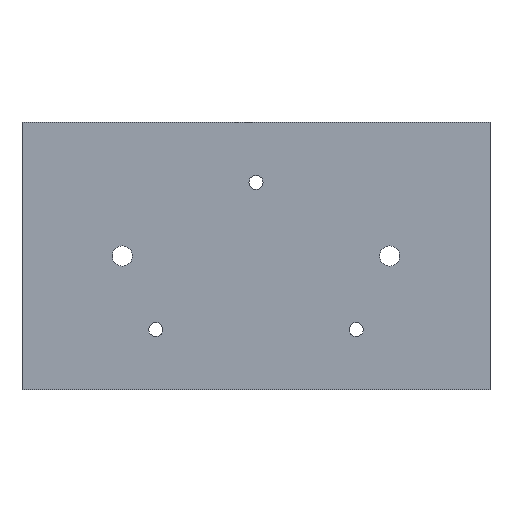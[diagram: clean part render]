
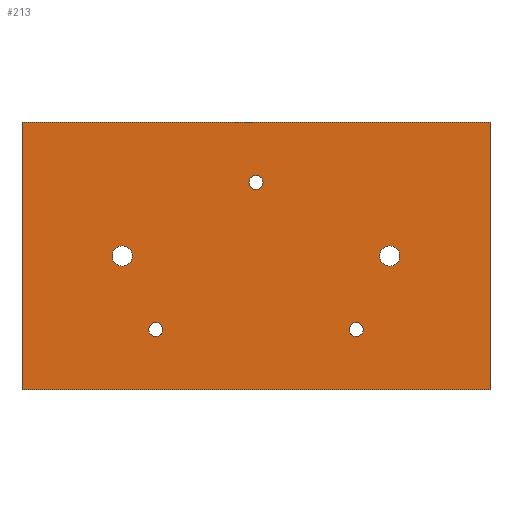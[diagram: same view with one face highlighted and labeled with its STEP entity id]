
A CAD part, top view. The second image highlights one B-rep face of the part: STEP entity #213.
In plain terms, the highlighted planar face has unit normal (0, 0, 1).
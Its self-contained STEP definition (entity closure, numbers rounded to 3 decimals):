
#24 = VERTEX_POINT('',#25);
#25 = CARTESIAN_POINT('',(-70.,-40.,24.));
#32 = PLANE('',#33);
#33 = AXIS2_PLACEMENT_3D('',#34,#35,#36);
#34 = CARTESIAN_POINT('',(-70.,-40.,16.));
#35 = DIRECTION('',(1.,0.,0.));
#36 = DIRECTION('',(0.,0.,1.));
#44 = PLANE('',#45);
#45 = AXIS2_PLACEMENT_3D('',#46,#47,#48);
#46 = CARTESIAN_POINT('',(-70.,-40.,16.));
#47 = DIRECTION('',(0.,1.,0.));
#48 = DIRECTION('',(0.,0.,1.));
#85 = VERTEX_POINT('',#86);
#86 = CARTESIAN_POINT('',(-70.,40.,24.));
#100 = PLANE('',#101);
#101 = AXIS2_PLACEMENT_3D('',#102,#103,#104);
#102 = CARTESIAN_POINT('',(-70.,40.,16.));
#103 = DIRECTION('',(0.,1.,0.));
#104 = DIRECTION('',(0.,0.,1.));
#112 = EDGE_CURVE('',#24,#85,#113,.T.);
#113 = SURFACE_CURVE('',#114,(#118,#125),.PCURVE_S1.);
#114 = LINE('',#115,#116);
#115 = CARTESIAN_POINT('',(-70.,-40.,24.));
#116 = VECTOR('',#117,1.);
#117 = DIRECTION('',(0.,1.,0.));
#118 = PCURVE('',#32,#119);
#119 = DEFINITIONAL_REPRESENTATION('',(#120),#124);
#120 = LINE('',#121,#122);
#121 = CARTESIAN_POINT('',(8.,0.));
#122 = VECTOR('',#123,1.);
#123 = DIRECTION('',(0.,-1.));
#124 = ( GEOMETRIC_REPRESENTATION_CONTEXT(2) 
PARAMETRIC_REPRESENTATION_CONTEXT() REPRESENTATION_CONTEXT('2D SPACE',''
  ) );
#125 = PCURVE('',#126,#131);
#126 = PLANE('',#127);
#127 = AXIS2_PLACEMENT_3D('',#128,#129,#130);
#128 = CARTESIAN_POINT('',(-70.,-40.,24.));
#129 = DIRECTION('',(0.,0.,1.));
#130 = DIRECTION('',(1.,0.,0.));
#131 = DEFINITIONAL_REPRESENTATION('',(#132),#136);
#132 = LINE('',#133,#134);
#133 = CARTESIAN_POINT('',(0.,0.));
#134 = VECTOR('',#135,1.);
#135 = DIRECTION('',(0.,1.));
#136 = ( GEOMETRIC_REPRESENTATION_CONTEXT(2) 
PARAMETRIC_REPRESENTATION_CONTEXT() REPRESENTATION_CONTEXT('2D SPACE',''
  ) );
#165 = EDGE_CURVE('',#24,#166,#168,.T.);
#166 = VERTEX_POINT('',#167);
#167 = CARTESIAN_POINT('',(70.,-40.,24.));
#168 = SURFACE_CURVE('',#169,(#173,#180),.PCURVE_S1.);
#169 = LINE('',#170,#171);
#170 = CARTESIAN_POINT('',(-70.,-40.,24.));
#171 = VECTOR('',#172,1.);
#172 = DIRECTION('',(1.,0.,0.));
#173 = PCURVE('',#44,#174);
#174 = DEFINITIONAL_REPRESENTATION('',(#175),#179);
#175 = LINE('',#176,#177);
#176 = CARTESIAN_POINT('',(8.,0.));
#177 = VECTOR('',#178,1.);
#178 = DIRECTION('',(0.,1.));
#179 = ( GEOMETRIC_REPRESENTATION_CONTEXT(2) 
PARAMETRIC_REPRESENTATION_CONTEXT() REPRESENTATION_CONTEXT('2D SPACE',''
  ) );
#180 = PCURVE('',#126,#181);
#181 = DEFINITIONAL_REPRESENTATION('',(#182),#186);
#182 = LINE('',#183,#184);
#183 = CARTESIAN_POINT('',(0.,0.));
#184 = VECTOR('',#185,1.);
#185 = DIRECTION('',(1.,0.));
#186 = ( GEOMETRIC_REPRESENTATION_CONTEXT(2) 
PARAMETRIC_REPRESENTATION_CONTEXT() REPRESENTATION_CONTEXT('2D SPACE',''
  ) );
#202 = PLANE('',#203);
#203 = AXIS2_PLACEMENT_3D('',#204,#205,#206);
#204 = CARTESIAN_POINT('',(70.,-40.,16.));
#205 = DIRECTION('',(1.,0.,0.));
#206 = DIRECTION('',(0.,0.,1.));
#213 = ADVANCED_FACE('',(#214,#262,#293,#324,#355,#386),#126,.T.);
#214 = FACE_BOUND('',#215,.T.);
#215 = EDGE_LOOP('',(#216,#217,#218,#241));
#216 = ORIENTED_EDGE('',*,*,#112,.F.);
#217 = ORIENTED_EDGE('',*,*,#165,.T.);
#218 = ORIENTED_EDGE('',*,*,#219,.T.);
#219 = EDGE_CURVE('',#166,#220,#222,.T.);
#220 = VERTEX_POINT('',#221);
#221 = CARTESIAN_POINT('',(70.,40.,24.));
#222 = SURFACE_CURVE('',#223,(#227,#234),.PCURVE_S1.);
#223 = LINE('',#224,#225);
#224 = CARTESIAN_POINT('',(70.,-40.,24.));
#225 = VECTOR('',#226,1.);
#226 = DIRECTION('',(0.,1.,0.));
#227 = PCURVE('',#126,#228);
#228 = DEFINITIONAL_REPRESENTATION('',(#229),#233);
#229 = LINE('',#230,#231);
#230 = CARTESIAN_POINT('',(140.,0.));
#231 = VECTOR('',#232,1.);
#232 = DIRECTION('',(0.,1.));
#233 = ( GEOMETRIC_REPRESENTATION_CONTEXT(2) 
PARAMETRIC_REPRESENTATION_CONTEXT() REPRESENTATION_CONTEXT('2D SPACE',''
  ) );
#234 = PCURVE('',#202,#235);
#235 = DEFINITIONAL_REPRESENTATION('',(#236),#240);
#236 = LINE('',#237,#238);
#237 = CARTESIAN_POINT('',(8.,0.));
#238 = VECTOR('',#239,1.);
#239 = DIRECTION('',(0.,-1.));
#240 = ( GEOMETRIC_REPRESENTATION_CONTEXT(2) 
PARAMETRIC_REPRESENTATION_CONTEXT() REPRESENTATION_CONTEXT('2D SPACE',''
  ) );
#241 = ORIENTED_EDGE('',*,*,#242,.F.);
#242 = EDGE_CURVE('',#85,#220,#243,.T.);
#243 = SURFACE_CURVE('',#244,(#248,#255),.PCURVE_S1.);
#244 = LINE('',#245,#246);
#245 = CARTESIAN_POINT('',(-70.,40.,24.));
#246 = VECTOR('',#247,1.);
#247 = DIRECTION('',(1.,0.,0.));
#248 = PCURVE('',#126,#249);
#249 = DEFINITIONAL_REPRESENTATION('',(#250),#254);
#250 = LINE('',#251,#252);
#251 = CARTESIAN_POINT('',(0.,80.));
#252 = VECTOR('',#253,1.);
#253 = DIRECTION('',(1.,0.));
#254 = ( GEOMETRIC_REPRESENTATION_CONTEXT(2) 
PARAMETRIC_REPRESENTATION_CONTEXT() REPRESENTATION_CONTEXT('2D SPACE',''
  ) );
#255 = PCURVE('',#100,#256);
#256 = DEFINITIONAL_REPRESENTATION('',(#257),#261);
#257 = LINE('',#258,#259);
#258 = CARTESIAN_POINT('',(8.,0.));
#259 = VECTOR('',#260,1.);
#260 = DIRECTION('',(0.,1.));
#261 = ( GEOMETRIC_REPRESENTATION_CONTEXT(2) 
PARAMETRIC_REPRESENTATION_CONTEXT() REPRESENTATION_CONTEXT('2D SPACE',''
  ) );
#262 = FACE_BOUND('',#263,.T.);
#263 = EDGE_LOOP('',(#264));
#264 = ORIENTED_EDGE('',*,*,#265,.F.);
#265 = EDGE_CURVE('',#266,#266,#268,.T.);
#266 = VERTEX_POINT('',#267);
#267 = CARTESIAN_POINT('',(-27.9,-22.,24.));
#268 = SURFACE_CURVE('',#269,(#274,#281),.PCURVE_S1.);
#269 = CIRCLE('',#270,2.1);
#270 = AXIS2_PLACEMENT_3D('',#271,#272,#273);
#271 = CARTESIAN_POINT('',(-30.,-22.,24.));
#272 = DIRECTION('',(0.,0.,1.));
#273 = DIRECTION('',(1.,0.,0.));
#274 = PCURVE('',#126,#275);
#275 = DEFINITIONAL_REPRESENTATION('',(#276),#280);
#276 = CIRCLE('',#277,2.1);
#277 = AXIS2_PLACEMENT_2D('',#278,#279);
#278 = CARTESIAN_POINT('',(40.,18.));
#279 = DIRECTION('',(1.,0.));
#280 = ( GEOMETRIC_REPRESENTATION_CONTEXT(2) 
PARAMETRIC_REPRESENTATION_CONTEXT() REPRESENTATION_CONTEXT('2D SPACE',''
  ) );
#281 = PCURVE('',#282,#287);
#282 = CYLINDRICAL_SURFACE('',#283,2.1);
#283 = AXIS2_PLACEMENT_3D('',#284,#285,#286);
#284 = CARTESIAN_POINT('',(-30.,-22.,16.));
#285 = DIRECTION('',(-0.,-0.,-1.));
#286 = DIRECTION('',(1.,0.,0.));
#287 = DEFINITIONAL_REPRESENTATION('',(#288),#292);
#288 = LINE('',#289,#290);
#289 = CARTESIAN_POINT('',(-0.,-8.));
#290 = VECTOR('',#291,1.);
#291 = DIRECTION('',(-1.,0.));
#292 = ( GEOMETRIC_REPRESENTATION_CONTEXT(2) 
PARAMETRIC_REPRESENTATION_CONTEXT() REPRESENTATION_CONTEXT('2D SPACE',''
  ) );
#293 = FACE_BOUND('',#294,.T.);
#294 = EDGE_LOOP('',(#295));
#295 = ORIENTED_EDGE('',*,*,#296,.F.);
#296 = EDGE_CURVE('',#297,#297,#299,.T.);
#297 = VERTEX_POINT('',#298);
#298 = CARTESIAN_POINT('',(32.1,-22.,24.));
#299 = SURFACE_CURVE('',#300,(#305,#312),.PCURVE_S1.);
#300 = CIRCLE('',#301,2.1);
#301 = AXIS2_PLACEMENT_3D('',#302,#303,#304);
#302 = CARTESIAN_POINT('',(30.,-22.,24.));
#303 = DIRECTION('',(0.,0.,1.));
#304 = DIRECTION('',(1.,0.,0.));
#305 = PCURVE('',#126,#306);
#306 = DEFINITIONAL_REPRESENTATION('',(#307),#311);
#307 = CIRCLE('',#308,2.1);
#308 = AXIS2_PLACEMENT_2D('',#309,#310);
#309 = CARTESIAN_POINT('',(100.,18.));
#310 = DIRECTION('',(1.,0.));
#311 = ( GEOMETRIC_REPRESENTATION_CONTEXT(2) 
PARAMETRIC_REPRESENTATION_CONTEXT() REPRESENTATION_CONTEXT('2D SPACE',''
  ) );
#312 = PCURVE('',#313,#318);
#313 = CYLINDRICAL_SURFACE('',#314,2.1);
#314 = AXIS2_PLACEMENT_3D('',#315,#316,#317);
#315 = CARTESIAN_POINT('',(30.,-22.,16.));
#316 = DIRECTION('',(-0.,-0.,-1.));
#317 = DIRECTION('',(1.,0.,0.));
#318 = DEFINITIONAL_REPRESENTATION('',(#319),#323);
#319 = LINE('',#320,#321);
#320 = CARTESIAN_POINT('',(-0.,-8.));
#321 = VECTOR('',#322,1.);
#322 = DIRECTION('',(-1.,0.));
#323 = ( GEOMETRIC_REPRESENTATION_CONTEXT(2) 
PARAMETRIC_REPRESENTATION_CONTEXT() REPRESENTATION_CONTEXT('2D SPACE',''
  ) );
#324 = FACE_BOUND('',#325,.T.);
#325 = EDGE_LOOP('',(#326));
#326 = ORIENTED_EDGE('',*,*,#327,.F.);
#327 = EDGE_CURVE('',#328,#328,#330,.T.);
#328 = VERTEX_POINT('',#329);
#329 = CARTESIAN_POINT('',(-36.985,0.,24.));
#330 = SURFACE_CURVE('',#331,(#336,#343),.PCURVE_S1.);
#331 = CIRCLE('',#332,3.015);
#332 = AXIS2_PLACEMENT_3D('',#333,#334,#335);
#333 = CARTESIAN_POINT('',(-40.,0.,24.));
#334 = DIRECTION('',(0.,0.,1.));
#335 = DIRECTION('',(1.,0.,0.));
#336 = PCURVE('',#126,#337);
#337 = DEFINITIONAL_REPRESENTATION('',(#338),#342);
#338 = CIRCLE('',#339,3.015);
#339 = AXIS2_PLACEMENT_2D('',#340,#341);
#340 = CARTESIAN_POINT('',(30.,40.));
#341 = DIRECTION('',(1.,0.));
#342 = ( GEOMETRIC_REPRESENTATION_CONTEXT(2) 
PARAMETRIC_REPRESENTATION_CONTEXT() REPRESENTATION_CONTEXT('2D SPACE',''
  ) );
#343 = PCURVE('',#344,#349);
#344 = CYLINDRICAL_SURFACE('',#345,3.015);
#345 = AXIS2_PLACEMENT_3D('',#346,#347,#348);
#346 = CARTESIAN_POINT('',(-40.,0.,16.));
#347 = DIRECTION('',(-0.,-0.,-1.));
#348 = DIRECTION('',(1.,0.,0.));
#349 = DEFINITIONAL_REPRESENTATION('',(#350),#354);
#350 = LINE('',#351,#352);
#351 = CARTESIAN_POINT('',(-0.,-8.));
#352 = VECTOR('',#353,1.);
#353 = DIRECTION('',(-1.,0.));
#354 = ( GEOMETRIC_REPRESENTATION_CONTEXT(2) 
PARAMETRIC_REPRESENTATION_CONTEXT() REPRESENTATION_CONTEXT('2D SPACE',''
  ) );
#355 = FACE_BOUND('',#356,.T.);
#356 = EDGE_LOOP('',(#357));
#357 = ORIENTED_EDGE('',*,*,#358,.F.);
#358 = EDGE_CURVE('',#359,#359,#361,.T.);
#359 = VERTEX_POINT('',#360);
#360 = CARTESIAN_POINT('',(43.015,0.,24.));
#361 = SURFACE_CURVE('',#362,(#367,#374),.PCURVE_S1.);
#362 = CIRCLE('',#363,3.015);
#363 = AXIS2_PLACEMENT_3D('',#364,#365,#366);
#364 = CARTESIAN_POINT('',(40.,0.,24.));
#365 = DIRECTION('',(0.,0.,1.));
#366 = DIRECTION('',(1.,0.,0.));
#367 = PCURVE('',#126,#368);
#368 = DEFINITIONAL_REPRESENTATION('',(#369),#373);
#369 = CIRCLE('',#370,3.015);
#370 = AXIS2_PLACEMENT_2D('',#371,#372);
#371 = CARTESIAN_POINT('',(110.,40.));
#372 = DIRECTION('',(1.,0.));
#373 = ( GEOMETRIC_REPRESENTATION_CONTEXT(2) 
PARAMETRIC_REPRESENTATION_CONTEXT() REPRESENTATION_CONTEXT('2D SPACE',''
  ) );
#374 = PCURVE('',#375,#380);
#375 = CYLINDRICAL_SURFACE('',#376,3.015);
#376 = AXIS2_PLACEMENT_3D('',#377,#378,#379);
#377 = CARTESIAN_POINT('',(40.,0.,16.));
#378 = DIRECTION('',(-0.,-0.,-1.));
#379 = DIRECTION('',(1.,0.,0.));
#380 = DEFINITIONAL_REPRESENTATION('',(#381),#385);
#381 = LINE('',#382,#383);
#382 = CARTESIAN_POINT('',(-0.,-8.));
#383 = VECTOR('',#384,1.);
#384 = DIRECTION('',(-1.,0.));
#385 = ( GEOMETRIC_REPRESENTATION_CONTEXT(2) 
PARAMETRIC_REPRESENTATION_CONTEXT() REPRESENTATION_CONTEXT('2D SPACE',''
  ) );
#386 = FACE_BOUND('',#387,.T.);
#387 = EDGE_LOOP('',(#388));
#388 = ORIENTED_EDGE('',*,*,#389,.F.);
#389 = EDGE_CURVE('',#390,#390,#392,.T.);
#390 = VERTEX_POINT('',#391);
#391 = CARTESIAN_POINT('',(2.1,22.,24.));
#392 = SURFACE_CURVE('',#393,(#398,#405),.PCURVE_S1.);
#393 = CIRCLE('',#394,2.1);
#394 = AXIS2_PLACEMENT_3D('',#395,#396,#397);
#395 = CARTESIAN_POINT('',(0.,22.,24.));
#396 = DIRECTION('',(0.,0.,1.));
#397 = DIRECTION('',(1.,0.,0.));
#398 = PCURVE('',#126,#399);
#399 = DEFINITIONAL_REPRESENTATION('',(#400),#404);
#400 = CIRCLE('',#401,2.1);
#401 = AXIS2_PLACEMENT_2D('',#402,#403);
#402 = CARTESIAN_POINT('',(70.,62.));
#403 = DIRECTION('',(1.,0.));
#404 = ( GEOMETRIC_REPRESENTATION_CONTEXT(2) 
PARAMETRIC_REPRESENTATION_CONTEXT() REPRESENTATION_CONTEXT('2D SPACE',''
  ) );
#405 = PCURVE('',#406,#411);
#406 = CYLINDRICAL_SURFACE('',#407,2.1);
#407 = AXIS2_PLACEMENT_3D('',#408,#409,#410);
#408 = CARTESIAN_POINT('',(0.,22.,16.));
#409 = DIRECTION('',(-0.,-0.,-1.));
#410 = DIRECTION('',(1.,0.,0.));
#411 = DEFINITIONAL_REPRESENTATION('',(#412),#416);
#412 = LINE('',#413,#414);
#413 = CARTESIAN_POINT('',(-0.,-8.));
#414 = VECTOR('',#415,1.);
#415 = DIRECTION('',(-1.,0.));
#416 = ( GEOMETRIC_REPRESENTATION_CONTEXT(2) 
PARAMETRIC_REPRESENTATION_CONTEXT() REPRESENTATION_CONTEXT('2D SPACE',''
  ) );
